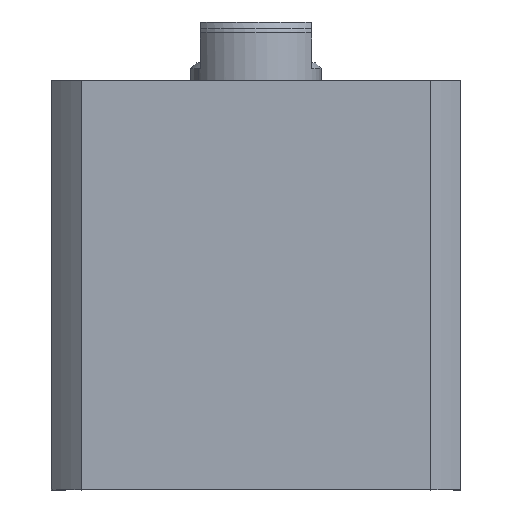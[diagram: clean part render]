
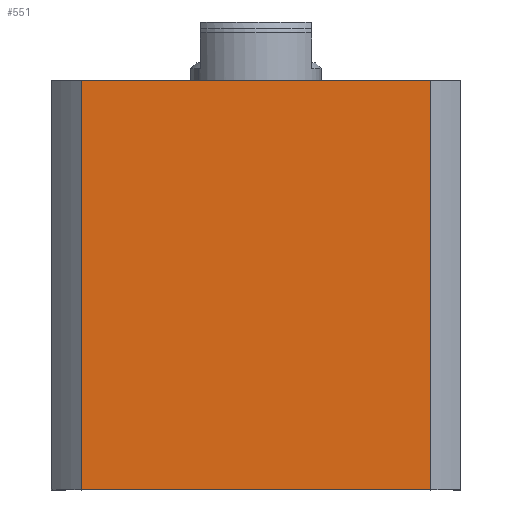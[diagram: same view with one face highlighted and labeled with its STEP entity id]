
A CAD part, front view. The second image highlights one B-rep face of the part: STEP entity #551.
In plain terms, the highlighted planar face has unit normal (0, -1, 0).
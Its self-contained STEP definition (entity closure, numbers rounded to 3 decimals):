
#531=AXIS2_PLACEMENT_3D('Plane Axis2P3D',#528,#529,#530) ;
#279=CARTESIAN_POINT('Vertex',(29.85,-35.,0.)) ;
#282=CARTESIAN_POINT('Line Origine',(0.,-35.,0.)) ;
#286=CARTESIAN_POINT('Vertex',(-29.85,-35.,0.)) ;
#513=CARTESIAN_POINT('Vertex',(29.85,-35.,70.)) ;
#516=CARTESIAN_POINT('Line Origine',(29.85,-35.,35.)) ;
#528=CARTESIAN_POINT('Axis2P3D Location',(35.,-35.,70.)) ;
#533=CARTESIAN_POINT('Line Origine',(0.,-35.,70.)) ;
#537=CARTESIAN_POINT('Vertex',(-29.85,-35.,70.)) ;
#540=CARTESIAN_POINT('Line Origine',(-29.85,-35.,35.)) ;
#283=DIRECTION('Vector Direction',(-1.,0.,0.)) ;
#517=DIRECTION('Vector Direction',(0.,0.,1.)) ;
#529=DIRECTION('Axis2P3D Direction',(-0.,-1.,-0.)) ;
#530=DIRECTION('Axis2P3D XDirection',(-1.,0.,0.)) ;
#534=DIRECTION('Vector Direction',(-1.,0.,0.)) ;
#541=DIRECTION('Vector Direction',(0.,0.,-1.)) ;
#284=VECTOR('Line Direction',#283,1.) ;
#518=VECTOR('Line Direction',#517,1.) ;
#535=VECTOR('Line Direction',#534,1.) ;
#542=VECTOR('Line Direction',#541,1.) ;
#546=ORIENTED_EDGE('',*,*,#539,.F.) ;
#547=ORIENTED_EDGE('',*,*,#544,.T.) ;
#548=ORIENTED_EDGE('',*,*,#288,.F.) ;
#549=ORIENTED_EDGE('',*,*,#520,.F.) ;
#551=ADVANCED_FACE('PartBody',(#550),#532,.T.) ;
#288=EDGE_CURVE('',#280,#287,#285,.T.) ;
#520=EDGE_CURVE('',#514,#280,#519,.F.) ;
#539=EDGE_CURVE('',#538,#514,#536,.F.) ;
#544=EDGE_CURVE('',#538,#287,#543,.T.) ;
#545=EDGE_LOOP('',(#546,#547,#548,#549)) ;
#550=FACE_OUTER_BOUND('',#545,.T.) ;
#285=LINE('Line',#282,#284) ;
#519=LINE('Line',#516,#518) ;
#536=LINE('Line',#533,#535) ;
#543=LINE('Line',#540,#542) ;
#532=PLANE('Plane',#531) ;
#280=VERTEX_POINT('',#279) ;
#287=VERTEX_POINT('',#286) ;
#514=VERTEX_POINT('',#513) ;
#538=VERTEX_POINT('',#537) ;
